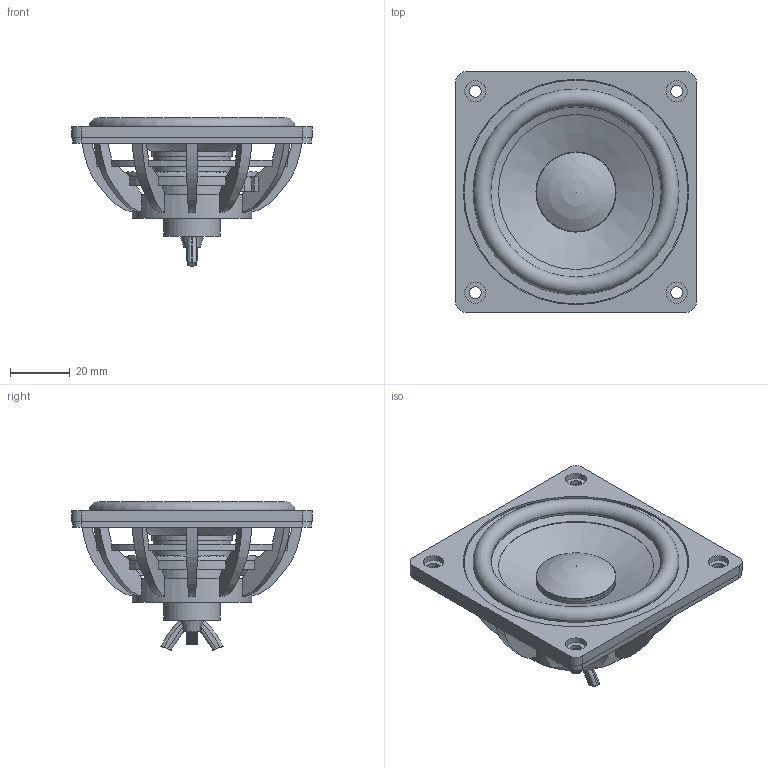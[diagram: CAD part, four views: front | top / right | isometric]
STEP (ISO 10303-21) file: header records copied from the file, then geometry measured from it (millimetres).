
FILE_DESCRIPTION(/* description */ (''),/* implementation_level */ '2;1');
FILE_NAME(/* name */ 'DMA80-PR.step',/* time_stamp */ '2026-07-13T17:58:23-04:00',/* author */ (''),/* organization */ (''),/* preprocessor_version */ 'ST-DEVELOPER v20.1',/* originating_system */ 'Autodesk Translation Framework v15.8.0.0',/* authorisation */ '');
FILE_SCHEMA (('AUTOMOTIVE_DESIGN { 1 0 10303 214 3 1 1 }'));
Length unit declared in the file: millimetre
Products named in the file (3): 080080JLB_ASM; 078078ZHIJIA25XIN; EVA_
Assembly tree (2 placements, depth 2):
  080080JLB_ASM
    078078ZHIJIA25XIN
    EVA_
Bounding box: 80.5 x 80.5 x 49.6 mm (x, y, z)
Volume: 27339.7 mm3; surface area: 43859.4 mm2
Topology: 3 solids, 3 shells, 369 faces, 1040 edges, 629 vertices
Faces by surface type: cylinder 137, plane 126, bspline 47, cone 47, torus 9, sphere 3
Full cylindrical faces by diameter (mm): 3.9 x31, 4 x5, 4.5 x4, 7 x4, 18.95 x1, 25.5 x1, 25.9 x2, 26.5 x1, 26.56 x1, 26.76 x1, 26.8 x1, 30 x1, 35 x1, 40 x1, 48 x1, 48.8 x1, 57 x1, 57.7 x1, 60 x1, 68.3 x1, 68.5 x1, 69 x1, 74.3 x1, 74.5 x1, 75 x1, 75.5 x1
Entity records: 34478 total; most frequent: CARTESIAN_POINT 24953, ORIENTED_EDGE 2076, DIRECTION 1923, EDGE_CURVE 1038, AXIS2_PLACEMENT_3D 730, VERTEX_POINT 629, LINE 463, VECTOR 463
